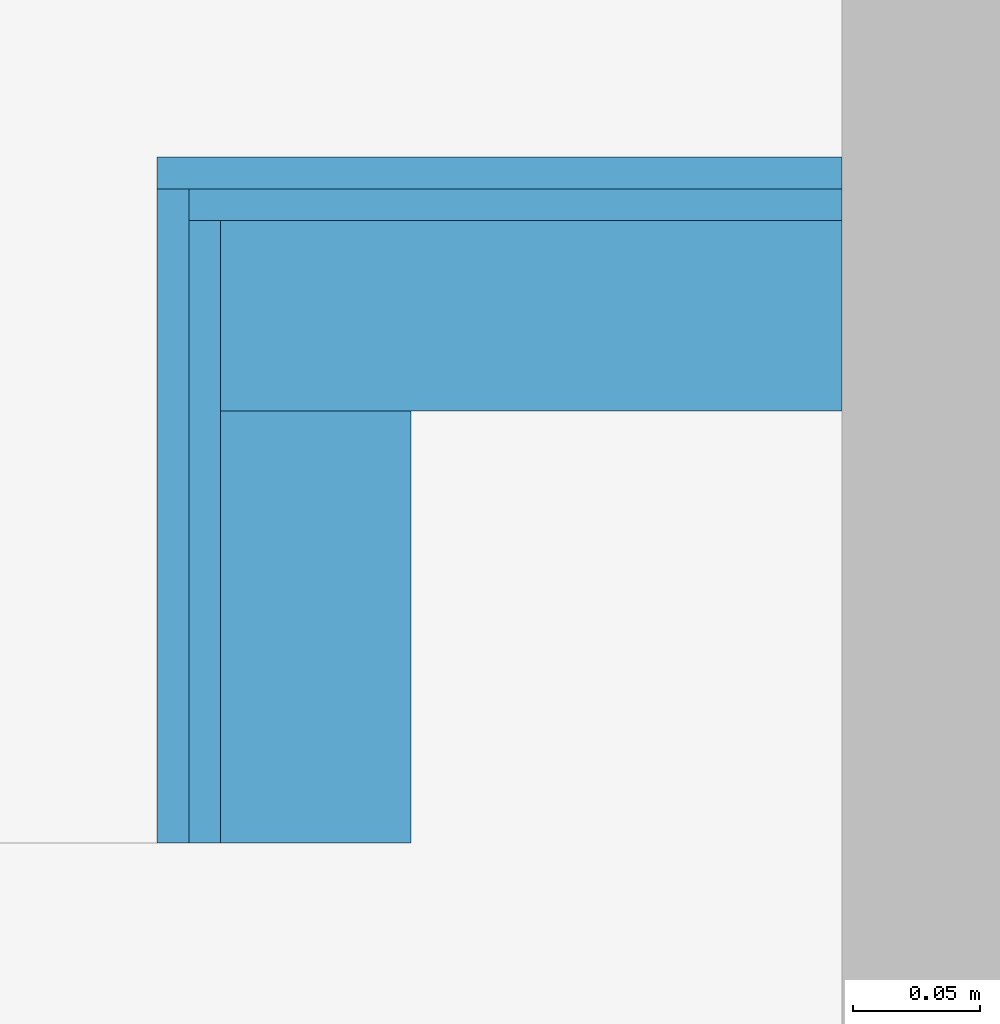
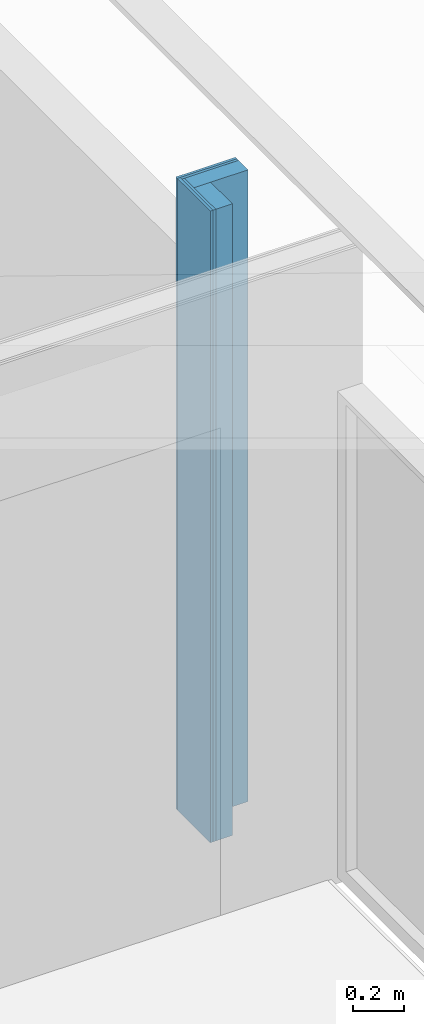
# One storey, part 15 of 25: 6 building element parts, 2 elements without a shape of their own.
"""IFC2X3 building model written with IfcOpenShell, lengths in millimetres."""

from ifc_helpers import new_model, entity, si_unit, converted_unit, derived_unit, money_unit, direction, frame, origin_with_axes, place, context, subcontext, project, spatial, faceted_brep, material, type_object, element, aggregate, save


model = new_model("IFC2X3")

# Units and contexts
model_context = context("Model", 3, precision=0.01, world=origin_with_axes(), true_north=direction((0.0, 1.0)))
body_context = subcontext(model_context, "Body", "Model", "MODEL_VIEW")
ifc_project = project(units=[si_unit("LENGTHUNIT", "METRE", prefix="MILLI"), si_unit("AREAUNIT", "SQUARE_METRE"), si_unit("VOLUMEUNIT", "CUBIC_METRE"), converted_unit("PLANEANGLEUNIT", "DEGREE", entity("IfcPlaneAngleMeasure", 0.0174532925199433), si_unit("PLANEANGLEUNIT", "RADIAN"), dimensions=[0, 0, 0, 0, 0, 0, 0]), money_unit("EUR"), converted_unit("TIMEUNIT", "Year", entity("IfcTimeMeasure", 31557600.0), si_unit("TIMEUNIT", "SECOND"), dimensions=[0, 0, 1, 0, 0, 0, 0]), si_unit("MASSUNIT", "GRAM", prefix="KILO"), si_unit("THERMODYNAMICTEMPERATUREUNIT", "DEGREE_CELSIUS"), si_unit("LUMINOUSINTENSITYUNIT", "LUMEN"), si_unit("ENERGYUNIT", "JOULE", prefix="MEGA"), derived_unit("THERMALCONDUCTANCEUNIT", [(si_unit("POWERUNIT", "WATT"), 1), (si_unit("LENGTHUNIT", "METRE"), -1), (si_unit("THERMODYNAMICTEMPERATUREUNIT", "KELVIN"), -1)]), derived_unit("SPECIFICHEATCAPACITYUNIT", [(si_unit("ENERGYUNIT", "JOULE"), 1), (si_unit("MASSUNIT", "GRAM", prefix="KILO"), -1), (si_unit("THERMODYNAMICTEMPERATUREUNIT", "KELVIN"), -1)]), derived_unit("MASSDENSITYUNIT", [(si_unit("MASSUNIT", "GRAM", prefix="KILO"), 1), (si_unit("VOLUMEUNIT", "CUBIC_METRE"), -1)])], contexts=[model_context])

# Site, building, storey
site_placement = place(None, origin_with_axes())
site = spatial("IfcSite", under=ifc_project, at=site_placement, Name="<site naam>", CompositionType="ELEMENT")
building_placement = place(site_placement, origin_with_axes())
building = spatial("IfcBuilding", under=site, at=building_placement, Name="<Naam gebouw>", CompositionType="ELEMENT")
storey_placement = place(building_placement, frame((0.0, 0.0, 9563.0), z_axis=(0.0, 0.0, 1.0), x_axis=(1.0, 0.0, 0.0)))
storey = spatial("IfcBuildingStorey", under=building, at=storey_placement, Name="03 3e tussenverdieping", CompositionType="ELEMENT", Elevation=9563.0)

# Wall, building element parts
wall_type = type_object("IfcWallType", Name="MS-03 GF 100 HTT DGS V/100.2 100", PredefinedType="NOTDEFINED")
wall_1_placement = place(storey_placement, frame((57987.99981440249, 12345.00007576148, 0.0), z_axis=(0.0, 0.0, 1.0), x_axis=(1.0, 0.0, 0.0)))
wall_1 = element("IfcWall", 1, at=wall_1_placement, inside=storey, type_object=wall_type, Name="22_Binnenwand_MS-03")
ifc_material_1 = material(Name="gipsplaat")
building_element_part_1_placement = place(wall_1_placement, origin_with_axes())
building_element_part_1 = element("IfcBuildingElementPart", 2, at=building_element_part_1_placement, material=ifc_material_1, Name="gipsplaat", context=body_context, shape_type="Brep", body=[
    faceted_brep([(169.7831050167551, 74.99999999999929, 3.000000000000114), (169.7831050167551, 87.50000000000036, 3.000000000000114), (169.7829885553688, 87.50000000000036, 3026.999999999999), (169.7829885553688, 75.00000000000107, 3026.999999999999), (-87.49999333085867, 87.50000000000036, 3.000000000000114), (-87.4999942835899, 74.99999999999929, 3.000000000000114), (-87.49999333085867, 87.50000000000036, 3026.999999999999), (-87.4999942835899, 74.99999999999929, 3026.999999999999)], [[[0, 1, 2, 3]], [[4, 1, 0, 5]], [[1, 4, 6, 2]], [[7, 3, 2, 6]], [[5, 0, 3, 7]], [[4, 5, 7, 6]]]),
])
ifc_material_2 = material(Name="isolatie_steenwol LSW")
building_element_part_2_placement = place(wall_1_placement, origin_with_axes())
building_element_part_2 = element("IfcBuildingElementPart", 3, at=building_element_part_2_placement, material=ifc_material_2, Name="isolatie_steenwol LSW", context=body_context, shape_type="Brep", body=[
    faceted_brep([(169.7831050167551, 0.0, 3.000000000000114), (169.7831050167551, 74.99999999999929, 3.000000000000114), (169.7829885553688, 75.00000000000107, 3026.999999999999), (169.7829885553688, 0.0, 3026.999999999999), (-74.99999428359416, 74.99999999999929, 3.000000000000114), (0.0, 0.0, 3.000000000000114), (-75.00000000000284, 0.0, 3.000000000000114), (-74.99999428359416, 74.99999999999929, 3026.999999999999), (-75.00000000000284, 0.0, 3026.999999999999)], [[[0, 1, 2, 3]], [[4, 1, 0, 5, 6]], [[1, 4, 7, 2]], [[8, 3, 2, 7]], [[5, 0, 3, 8, 6]], [[4, 6, 8, 7]]]),
])
building_element_part_3_placement = place(wall_1_placement, origin_with_axes())
building_element_part_3 = element("IfcBuildingElementPart", 4, at=building_element_part_3_placement, material=ifc_material_1, Name="gipsplaat", context=body_context, shape_type="Brep", body=[
    faceted_brep([(169.7831050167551, 87.50000000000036, 3.000000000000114), (169.7831050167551, 99.99999999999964, 3.000000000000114), (169.7829885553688, 99.99999999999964, 3026.999999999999), (169.7829885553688, 87.50000000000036, 3026.999999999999), (-99.99999237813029, 99.99999999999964, 3.000000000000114), (-99.99999333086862, 87.50000000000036, 3.000000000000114), (-99.99999237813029, 99.99999999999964, 3026.999999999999), (-99.99999333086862, 87.50000000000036, 3026.999999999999)], [[[0, 1, 2, 3]], [[4, 1, 0, 5]], [[1, 4, 6, 2]], [[7, 3, 2, 6]], [[5, 0, 3, 7]], [[4, 5, 7, 6]]]),
])
aggregate(wall_1, [building_element_part_1, building_element_part_2, building_element_part_3])

wall_2_placement = place(storey_placement, frame((57987.9998014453, 12175.00000000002, 0.0), z_axis=(0.0, 0.0, 1.0), x_axis=(7.621875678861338e-08, 0.9999999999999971, 0.0)))
wall_2 = element("IfcWall", 5, at=wall_2_placement, inside=storey, type_object=wall_type, Name="22_Binnenwand_MS-03")
building_element_part_4_placement = place(wall_2_placement, origin_with_axes())
building_element_part_4 = element("IfcBuildingElementPart", 6, at=building_element_part_4_placement, material=ifc_material_1, Name="gipsplaat", context=body_context, shape_type="Brep", body=[
    faceted_brep([(-8.171237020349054e-05, 87.49999999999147, 3.000000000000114), (257.5000690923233, 87.50001962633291, 3.000000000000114), (257.5000690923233, 87.50001962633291, 3026.999999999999), (-6.669141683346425e-06, 87.49999999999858, 3026.999999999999), (257.5000681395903, 100.0000196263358, 3.000000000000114), (-8.26651032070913e-05, 99.99999999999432, 3.000000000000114), (257.5000681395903, 100.0000196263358, 3026.999999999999), (-7.621874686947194e-06, 100.0000000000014, 3026.999999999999)], [[[0, 1, 2, 3]], [[4, 1, 0, 5]], [[1, 4, 6, 2]], [[2, 6, 7, 3]], [[5, 0, 3, 7]], [[4, 5, 7, 6]]]),
])
building_element_part_5_placement = place(wall_2_placement, origin_with_axes())
building_element_part_5 = element("IfcBuildingElementPart", 7, at=building_element_part_5_placement, material=ifc_material_1, Name="gipsplaat", context=body_context, shape_type="Brep", body=[
    faceted_brep([(-8.075963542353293e-05, 74.99999999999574, 3.000000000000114), (245.000070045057, 75.00001867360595, 3.000000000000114), (245.000070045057, 75.00001867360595, 3026.999999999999), (-5.716406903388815e-06, 75.00000000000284, 3026.999999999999), (245.0000690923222, 87.50001867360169, 3.000000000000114), (-8.171237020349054e-05, 87.49999999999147, 3.000000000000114), (245.0000690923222, 87.50001867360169, 3026.999999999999), (-6.669141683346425e-06, 87.49999999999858, 3026.999999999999)], [[[0, 1, 2, 3]], [[4, 1, 0, 5]], [[1, 4, 6, 2]], [[2, 6, 7, 3]], [[5, 0, 3, 7]], [[4, 5, 7, 6]]]),
])
building_element_part_6_placement = place(wall_2_placement, origin_with_axes())
building_element_part_6 = element("IfcBuildingElementPart", 8, at=building_element_part_6_placement, material=ifc_material_2, Name="isolatie_steenwol LSW", context=body_context, shape_type="Brep", body=[
    faceted_brep([(-7.504322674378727e-05, -1.295720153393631e-05, 3.000000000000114), (170.0000757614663, 0.0, 3.000000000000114), (170.0000757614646, 1.295719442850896e-05, 3026.999999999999), (0.0, 0.0, 3026.999999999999), (170.0000700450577, 75.00001295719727, 3.000000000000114), (-8.075963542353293e-05, 74.99999999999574, 3.000000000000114), (170.0000700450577, 75.00001295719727, 3026.999999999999), (-5.716406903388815e-06, 75.00000000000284, 3026.999999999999)], [[[0, 1, 2, 3]], [[4, 1, 0, 5]], [[1, 4, 6, 2]], [[2, 6, 7, 3]], [[5, 0, 3, 7]], [[4, 5, 7, 6]]]),
])
aggregate(wall_2, [building_element_part_4, building_element_part_5, building_element_part_6])

save(model, "model.ifc")
